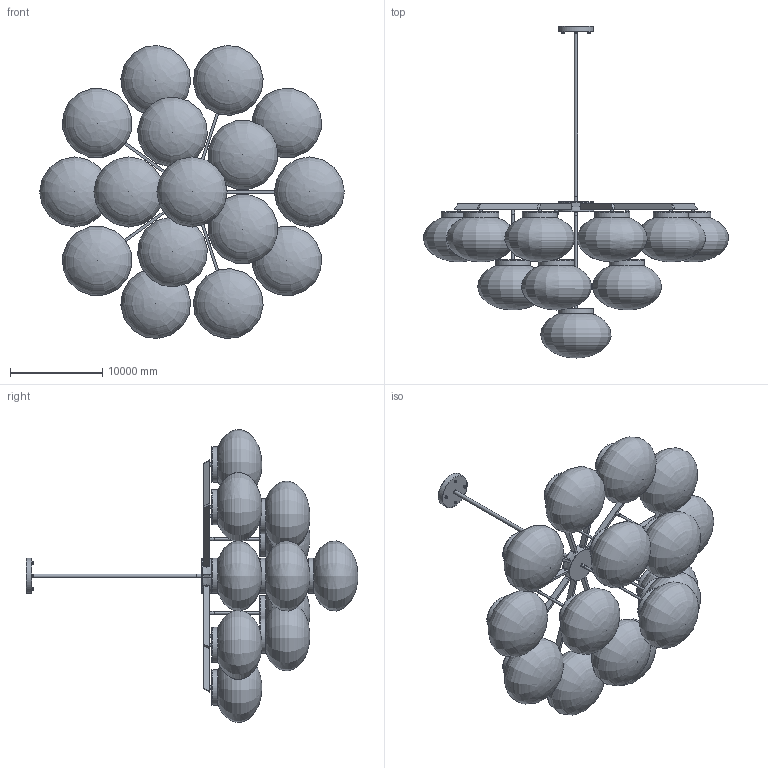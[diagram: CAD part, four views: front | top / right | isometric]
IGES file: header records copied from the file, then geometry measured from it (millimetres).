
Global section: file name: Cloudesley Chandelier-16heads; native system: AutoCAD 2022 - 简体中文 (Simplified Chinese),62HAuto; preprocessor: desk Translation Framework DWG producer (atf_dwg_producer); organization: unknown; date: 20251028.170232; units: inch
Bounding box: 33011.64 x 35952.76 x 31729.53 mm (x, y, z)
Volume: 117279583977.5 mm3; surface area: 5776277243.7 mm2
Topology: 143 solids, 143 shells, 1144 faces, 2674 edges, 1890 vertices
Faces by surface type: bspline 1144
